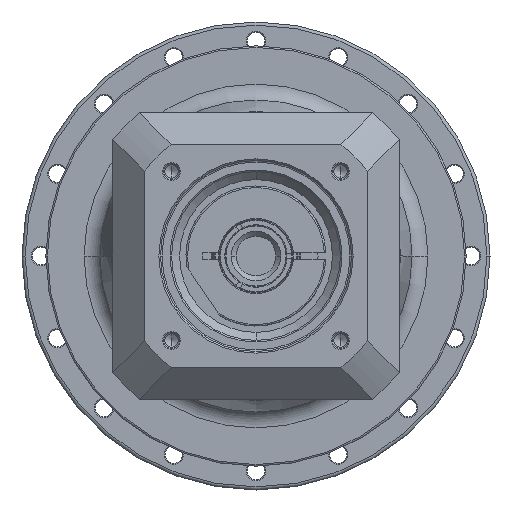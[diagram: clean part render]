
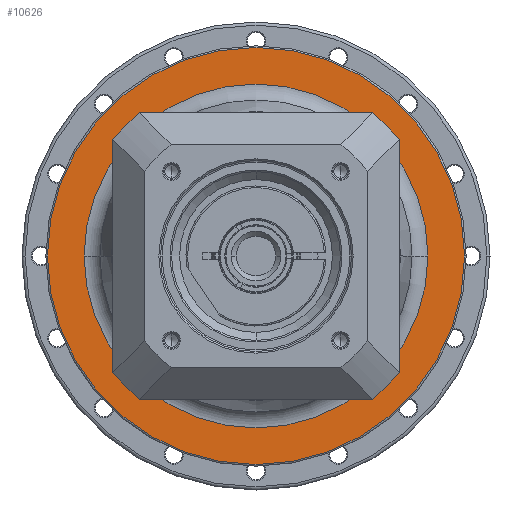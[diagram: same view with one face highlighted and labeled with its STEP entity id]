
A CAD part, left-side view. The second image highlights one B-rep face of the part: STEP entity #10626.
In plain terms, the highlighted planar face has unit normal (-1, 0, 0) as drawn and (1, 0, 0) by its records, which use the part's own axes.
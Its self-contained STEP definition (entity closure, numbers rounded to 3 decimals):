
#10057=CARTESIAN_POINT('',(-18.5,0.,0.));
#10058=DIRECTION('',(-1.,0.,0.));
#10059=DIRECTION('',(0.,-1.,0.));
#10060=AXIS2_PLACEMENT_3D('',#10057,#10058,#10059);
#10062=CARTESIAN_POINT('',(-18.5,0.,0.));
#10063=DIRECTION('',(-1.,0.,0.));
#10064=DIRECTION('',(0.,1.,0.));
#10065=AXIS2_PLACEMENT_3D('',#10062,#10063,#10064);
#10067=CARTESIAN_POINT('',(-18.5,0.,0.));
#10068=DIRECTION('',(1.,0.,0.));
#10069=DIRECTION('',(0.,1.,0.));
#10070=AXIS2_PLACEMENT_3D('',#10067,#10068,#10069);
#10077=CARTESIAN_POINT('',(-18.5,0.,0.));
#10078=DIRECTION('',(-1.,0.,0.));
#10079=DIRECTION('',(0.,1.,0.));
#10080=AXIS2_PLACEMENT_3D('',#10077,#10078,#10079);
#10181=CARTESIAN_POINT('',(-18.5,-65.5,0.));
#10182=CARTESIAN_POINT('',(-18.5,65.5,0.));
#10183=VERTEX_POINT('',#10181);
#10184=VERTEX_POINT('',#10182);
#10209=CARTESIAN_POINT('',(-18.5,54.,0.));
#10211=VERTEX_POINT('',#10209);
#10213=CARTESIAN_POINT('',(-18.5,-54.,0.));
#10215=VERTEX_POINT('',#10213);
#10611=CARTESIAN_POINT('',(-18.5,0.,0.));
#10612=DIRECTION('',(1.,0.,0.));
#10613=DIRECTION('',(0.,-1.,0.));
#10614=AXIS2_PLACEMENT_3D('',#10611,#10612,#10613);
#10615=PLANE('',#10614);
#10616=ORIENTED_EDGE('',*,*,#10552,.T.);
#10617=ORIENTED_EDGE('',*,*,#10567,.T.);
#10618=EDGE_LOOP('',(#10616,#10617));
#10619=FACE_OUTER_BOUND('',#10618,.F.);
#10621=ORIENTED_EDGE('',*,*,#10620,.T.);
#10623=ORIENTED_EDGE('',*,*,#10622,.F.);
#10624=EDGE_LOOP('',(#10621,#10623));
#10625=FACE_BOUND('',#10624,.F.);
#10626=ADVANCED_FACE('',(#10619,#10625),#10615,.T.);
#10061=CIRCLE('',#10060,65.5);
#10066=CIRCLE('',#10065,65.5);
#10071=CIRCLE('',#10070,54.);
#10081=CIRCLE('',#10080,54.);
#10552=EDGE_CURVE('',#10183,#10184,#10061,.T.);
#10567=EDGE_CURVE('',#10184,#10183,#10066,.T.);
#10620=EDGE_CURVE('',#10211,#10215,#10071,.T.);
#10622=EDGE_CURVE('',#10211,#10215,#10081,.T.);
